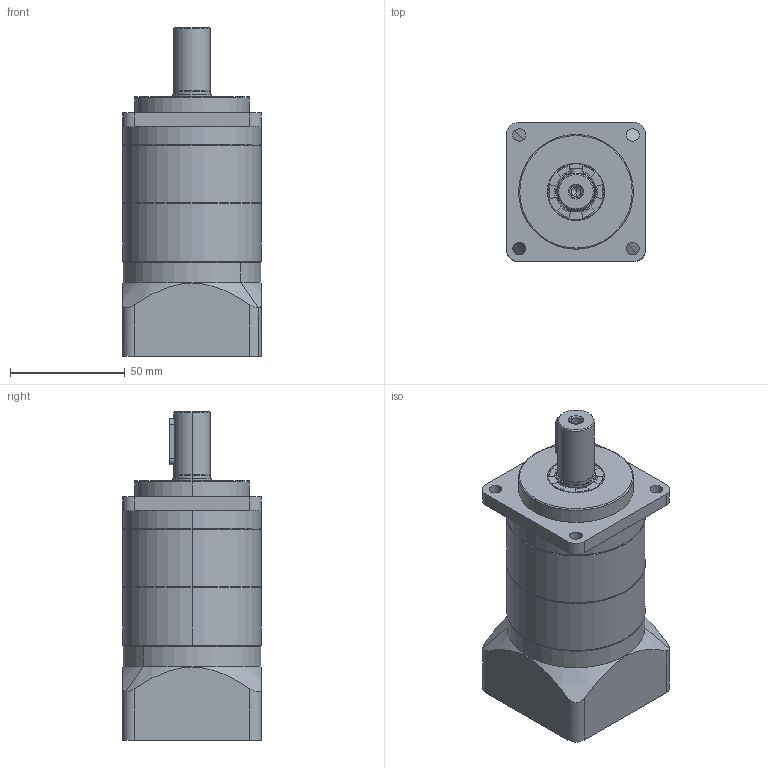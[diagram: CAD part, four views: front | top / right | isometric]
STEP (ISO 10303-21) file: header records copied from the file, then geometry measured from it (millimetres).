
FILE_DESCRIPTION (( 'STEP AP203' ), '1' );
FILE_NAME ('SA60-L2(8-36-70.71-M4).STEP', '2022-03-11T18:23:42', ( '' ), ( '' ), 'SwSTEP 2.0', 'SolidWorks 2016', '' );
FILE_SCHEMA (( 'CONFIG_CONTROL_DESIGN' ));
Length unit declared in the file: millimetre
Products named in the file (9): 60-(o14-8x17); SN60; SA60-L2(8-36-70.71-M4); SN60-17x25x4; SN60-(16x29-5x20); SA60-(50x7-70-5.5)-; SN60-34x20x10.5-M5; SN60-(14); SN60-(36-70.71-M4)
Assembly tree (9 placements, depth 2):
  SA60-L2(8-36-70.71-M4)
    SA60-(50x7-70-5.5)-
    SN60-17x25x4
    SN60-(16x29-5x20)
    SN60  x2
    SN60-(36-70.71-M4)
    SN60-(14)
    SN60-34x20x10.5-M5
    60-(o14-8x17)
Bounding box: 60.5 x 60.5 x 143 mm (x, y, z)
Volume: 327779.9 mm3; surface area: 78410.7 mm2
Topology: 12 solids, 12 shells, 439 faces, 1101 edges, 696 vertices
Faces by surface type: cylinder 222, plane 112, cone 58, bspline 39, torus 8
Entity records: 32088 total; most frequent: CARTESIAN_POINT 21505, ORIENTED_EDGE 2090, DIRECTION 1938, EDGE_CURVE 1045, AXIS2_PLACEMENT_3D 762, VERTEX_POINT 672, EDGE_LOOP 491, FACE_OUTER_BOUND 423
